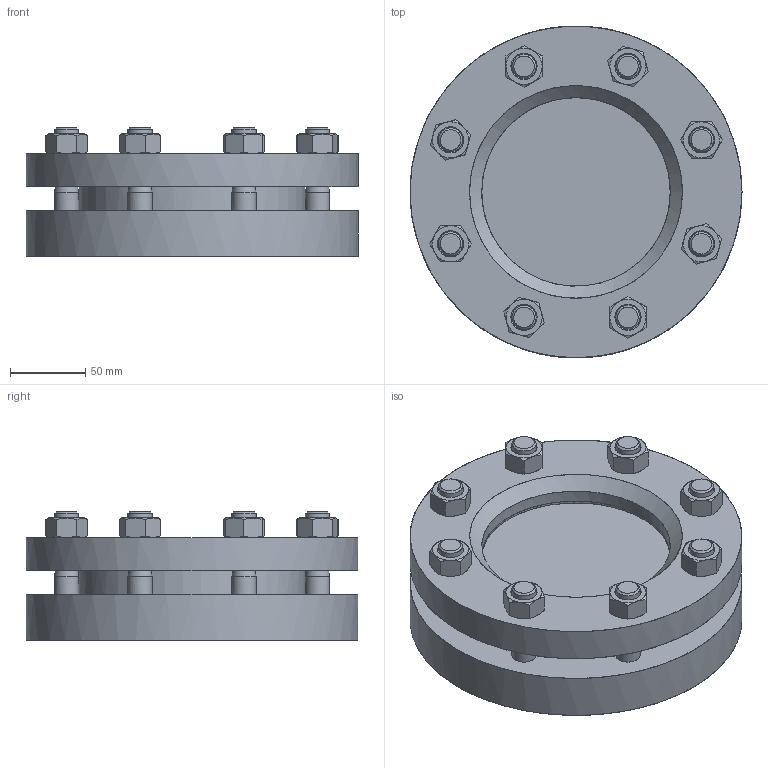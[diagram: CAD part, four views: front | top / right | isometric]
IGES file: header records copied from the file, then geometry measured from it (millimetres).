
Start section: C
Global section: file name: Armatur 28120  DN 100 PN16.igs; native system: By Siemens PLM Incorporated; preprocessor: XPlus GENERIC/IGES 18.0.17; author: Author; organization: Title; date: 20160808.072744; units: millimetre
Bounding box: 220 x 219.79 x 85 mm (x, y, z)
Surface area: 292081.9 mm2 (no closed solid volume)
Topology: 0 solids, 0 shells, 251 faces, 1390 edges, 1382 vertices
Faces by surface type: bspline 251
